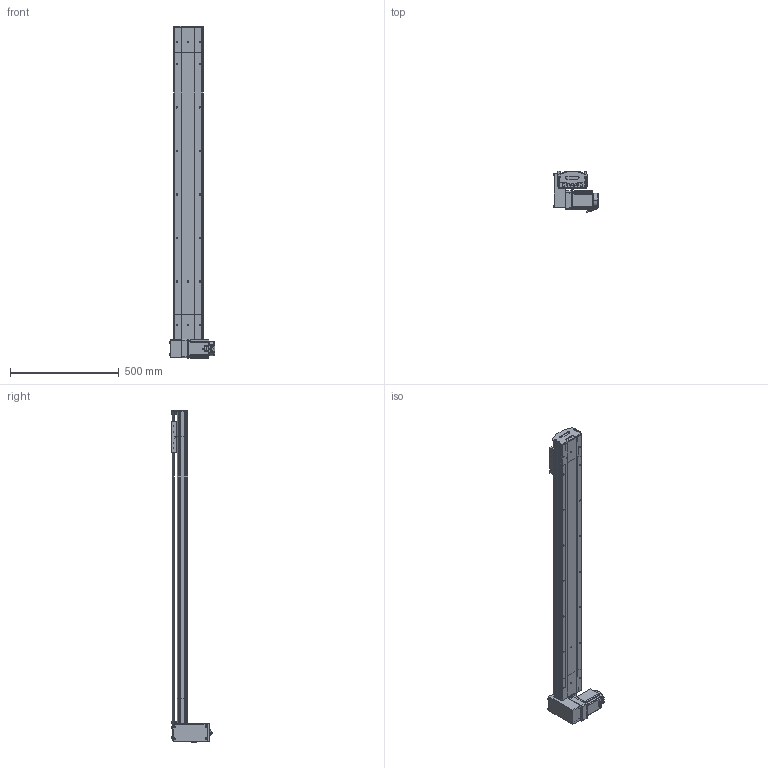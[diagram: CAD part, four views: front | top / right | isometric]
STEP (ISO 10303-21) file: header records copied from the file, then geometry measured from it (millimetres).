
FILE_DESCRIPTION (( 'STEP AP214' ), '1' );
FILE_NAME ('D14 TBH RU S1200.STEP', '2010-06-29T13:43:57', ( 'Conseil Régional Haute-Normandie' ), ( 'Conseil Régional Haute-Normandie' ), 'SwSTEP 2.0', 'SolidWorks 2010', '' );
FILE_SCHEMA (( 'AUTOMOTIVE_DESIGN' ));
Length unit declared in the file: millimetre
Products named in the file (39): corp head D14_Default; plaque de  bout head D14 RU_Default; Arbre+rail head D14; Tail D14B_Default; couvercle D14 course L1200_Default; D14 couroie L1200_Default; vis M5 L12_Default; plaque de  bout tail D14_Default; D14 TBH RU S1200; poulie head_Default; Rail + couroie D14 Course 1200 ; corpl 1200_Default; couroie 2_Default; corpl tail D14_Default; Chariot D14; Cvis M5 L70_Default; chariot D14B_Default; Moteur motionking 90BLDC100A-640; avant 90BLDC100A-640; Arbre+rail tail D14; couvercle D14_Default; guide D14; Plaque racord D14_Default; vis M5 L8 90°_Default; corps 90BLDC100A-640; poulie tail_Default; Conecteur_Default; Cache arbre_Default; Cache_Default; vis M5 L5_Default; Conecteur2_Default; renvoi RH_Default; codeur 90BLDC100-640; tete d''axe haut D14; Vis M5 L16-2_Default; vis M5 L16_Default; Couroie_Default; D14 TB H RU_Default; couvercle D14 head_Default
Assembly tree (68 placements, depth 4):
  D14 TBH RU S1200
    chariot D14B_Default
      vis M5 L12_Default  x4
      guide D14  x2
      Chariot D14
    Tail D14B_Default
      vis M5 L12_Default  x4
      couvercle D14_Default
      tete d''axe haut D14
      vis M5 L8 90°_Default  x2
      Arbre+rail tail D14
      Couroie_Default
      plaque de  bout tail D14_Default
      corpl tail D14_Default
      poulie tail_Default
      vis M5 L16_Default  x2
    D14 TB H RU_Default
      couroie 2_Default
      vis M5 L12_Default  x12
      Cache arbre_Default
      Arbre+rail head D14
      Vis M5 L16-2_Default  x4
      plaque de  bout head D14 RU_Default
      Cache_Default  x2
      Cvis M5 L70_Default  x4
      renvoi RH_Default
      Plaque racord D14_Default
      poulie head_Default
      couvercle D14 head_Default
      corp head D14_Default
      Moteur motionking 90BLDC100A-640
        avant 90BLDC100A-640
        codeur 90BLDC100-640
        corps 90BLDC100A-640
        Conecteur_Default
        Conecteur2_Default
      vis M5 L5_Default  x2
    D14 couroie L1200_Default
      Rail + couroie D14 Course 1200 
      couvercle D14 course L1200_Default
      corpl 1200_Default
Bounding box: 207.2 x 191.1 x 1525.75 mm (x, y, z)
Volume: 6696794.4 mm3; surface area: 2206761.9 mm2
Topology: 92 solids, 92 shells, 2629 faces, 6431 edges, 4146 vertices
Faces by surface type: plane 1589, cylinder 727, bspline 136, torus 89, cone 84, sphere 4
Entity records: 79172 total; most frequent: CARTESIAN_POINT 23545, ORIENTED_EDGE 9722, DIRECTION 9496, EDGE_CURVE 4861, LINE 3274, VECTOR 3274, VERTEX_POINT 3196, AXIS2_PLACEMENT_3D 3111
